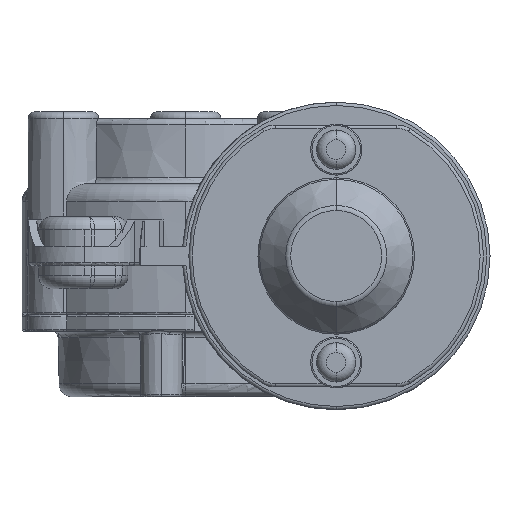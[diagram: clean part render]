
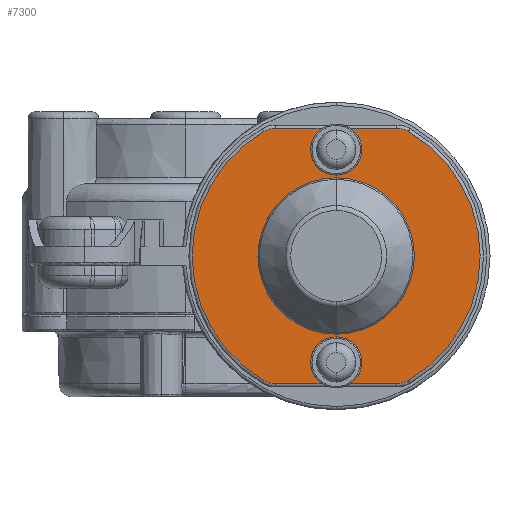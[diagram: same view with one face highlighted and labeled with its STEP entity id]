
A CAD part, left-side view. The second image highlights one B-rep face of the part: STEP entity #7300.
In plain terms, the highlighted planar face has unit normal (-1, 0, 0).
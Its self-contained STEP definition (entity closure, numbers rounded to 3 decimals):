
#22 = CARTESIAN_POINT ( 'NONE',  ( -117.5, -23., -12.35 ) ) ;
#1283 = CIRCLE ( 'NONE', #1748, 3.9 ) ;
#1554 = AXIS2_PLACEMENT_3D ( 'NONE', #12124, #12119, #12143 ) ;
#1557 = AXIS2_PLACEMENT_3D ( 'NONE', #12114, #11857, #11928 ) ;
#1558 = AXIS2_PLACEMENT_3D ( 'NONE', #11437, #12146, #12145 ) ;
#1559 = AXIS2_PLACEMENT_3D ( 'NONE', #11419, #12149, #12116 ) ;
#1561 = AXIS2_PLACEMENT_3D ( 'NONE', #12113, #12066, #12111 ) ;
#1562 = AXIS2_PLACEMENT_3D ( 'NONE', #11297, #11438, #11436 ) ;
#1611 = AXIS2_PLACEMENT_3D ( 'NONE', #11411, #11304, #11305 ) ;
#1667 = AXIS2_PLACEMENT_3D ( 'NONE', #16352, #16359, #16227 ) ;
#1669 = AXIS2_PLACEMENT_3D ( 'NONE', #12095, #12088, #12082 ) ;
#1670 = AXIS2_PLACEMENT_3D ( 'NONE', #12092, #12090, #12089 ) ;
#1748 = AXIS2_PLACEMENT_3D ( 'NONE', #11548, #11502, #11499 ) ;
#1856 = AXIS2_PLACEMENT_3D ( 'NONE', #7609, #7584, #7576 ) ;
#1927 = AXIS2_PLACEMENT_3D ( 'NONE', #19474, #19078, #19107 ) ;
#5151 = CIRCLE ( 'NONE', #1927, 3.9 ) ;
#5546 = FACE_OUTER_BOUND ( 'NONE', #13254, .T. ) ;
#5581 = FACE_BOUND ( 'NONE', #10168, .T. ) ;
#5857 = EDGE_CURVE ( 'NONE', #18421, #18393, #19010, .T. ) ;
#6072 = EDGE_CURVE ( 'NONE', #18514, #18550, #14117, .T. ) ;
#6076 = EDGE_CURVE ( 'NONE', #18550, #18768, #14162, .T. ) ;
#6077 = EDGE_CURVE ( 'NONE', #18418, #18742, #7105, .T. ) ;
#6078 = EDGE_CURVE ( 'NONE', #18432, #18780, #14077, .T. ) ;
#6079 = EDGE_CURVE ( 'NONE', #18393, #18421, #14183, .T. ) ;
#6080 = EDGE_CURVE ( 'NONE', #18658, #18780, #14116, .T. ) ;
#6082 = EDGE_CURVE ( 'NONE', #18742, #18514, #14098, .T. ) ;
#6083 = EDGE_CURVE ( 'NONE', #18768, #18404, #14186, .T. ) ;
#6085 = EDGE_CURVE ( 'NONE', #18620, #18536, #14157, .T. ) ;
#6086 = EDGE_CURVE ( 'NONE', #18536, #18663, #14174, .T. ) ;
#6088 = EDGE_CURVE ( 'NONE', #18595, #18620, #14076, .T. ) ;
#6090 = EDGE_CURVE ( 'NONE', #18595, #18310, #14165, .T. ) ;
#6091 = EDGE_CURVE ( 'NONE', #18663, #18658, #14144, .T. ) ;
#6206 = EDGE_CURVE ( 'NONE', #18418, #18432, #1283, .T. ) ;
#7105 = LINE ( 'NONE', #11431, #14107 ) ;
#7300 = ADVANCED_FACE ( 'NONE', ( #5581, #5546 ), #7618, .T. ) ;
#7576 = DIRECTION ( 'NONE',  ( 0., 0., 1. ) ) ;
#7584 = DIRECTION ( 'NONE',  ( -1., 0., 0. ) ) ;
#7609 = CARTESIAN_POINT ( 'NONE',  ( -117.5, -23., 0. ) ) ;
#7618 = PLANE ( 'NONE',  #1856 ) ;
#9659 = CARTESIAN_POINT ( 'NONE',  ( -117.5, -25.156, -19.5 ) ) ;
#9664 = CARTESIAN_POINT ( 'NONE',  ( -117.5, -11.956, 19.027 ) ) ;
#9671 = CARTESIAN_POINT ( 'NONE',  ( -117.5, -32.287, -19.5 ) ) ;
#9678 = CARTESIAN_POINT ( 'NONE',  ( -117.5, -20.844, -19.5 ) ) ;
#9702 = CARTESIAN_POINT ( 'NONE',  ( -117.5, -23., -11.95 ) ) ;
#9757 = CARTESIAN_POINT ( 'NONE',  ( -117.5, -32.287, 19.5 ) ) ;
#9778 = CARTESIAN_POINT ( 'NONE',  ( -117.5, -25.156, 19.5 ) ) ;
#9805 = CARTESIAN_POINT ( 'NONE',  ( -117.5, -13.713, -19.5 ) ) ;
#9806 = CARTESIAN_POINT ( 'NONE',  ( -117.5, -20.844, 19.5 ) ) ;
#9885 = CARTESIAN_POINT ( 'NONE',  ( -117.5, -23., 12.35 ) ) ;
#9916 = CARTESIAN_POINT ( 'NONE',  ( -117.5, -13.713, 19.5 ) ) ;
#9917 = CARTESIAN_POINT ( 'NONE',  ( -117.5, -34.044, 19.027 ) ) ;
#9945 = CARTESIAN_POINT ( 'NONE',  ( -117.5, -34.044, -19.027 ) ) ;
#10091 = CARTESIAN_POINT ( 'NONE',  ( -117.5, -11.956, -19.027 ) ) ;
#10127 = CARTESIAN_POINT ( 'NONE',  ( -117.5, -23., 11.95 ) ) ;
#10142 = ORIENTED_EDGE ( 'NONE', *, *, #12480, .F. ) ;
#10168 = EDGE_LOOP ( 'NONE', ( #10453, #10173 ) ) ;
#10173 = ORIENTED_EDGE ( 'NONE', *, *, #5857, .F. ) ;
#10188 = ORIENTED_EDGE ( 'NONE', *, *, #6076, .T. ) ;
#10212 = ORIENTED_EDGE ( 'NONE', *, *, #6072, .T. ) ;
#10226 = ORIENTED_EDGE ( 'NONE', *, *, #6078, .F. ) ;
#10292 = ORIENTED_EDGE ( 'NONE', *, *, #6080, .T. ) ;
#10371 = ORIENTED_EDGE ( 'NONE', *, *, #6088, .T. ) ;
#10372 = ORIENTED_EDGE ( 'NONE', *, *, #6086, .T. ) ;
#10389 = ORIENTED_EDGE ( 'NONE', *, *, #6082, .T. ) ;
#10452 = ORIENTED_EDGE ( 'NONE', *, *, #6077, .T. ) ;
#10453 = ORIENTED_EDGE ( 'NONE', *, *, #6079, .F. ) ;
#10465 = ORIENTED_EDGE ( 'NONE', *, *, #6091, .T. ) ;
#10467 = ORIENTED_EDGE ( 'NONE', *, *, #6090, .F. ) ;
#10491 = ORIENTED_EDGE ( 'NONE', *, *, #6085, .T. ) ;
#10578 = ORIENTED_EDGE ( 'NONE', *, *, #6083, .T. ) ;
#10590 = ORIENTED_EDGE ( 'NONE', *, *, #6206, .F. ) ;
#11297 = CARTESIAN_POINT ( 'NONE',  ( -117.5, -13.713, -16. ) ) ;
#11304 = DIRECTION ( 'NONE',  ( -1., 0., 0. ) ) ;
#11305 = DIRECTION ( 'NONE',  ( 0., 0., 1. ) ) ;
#11411 = CARTESIAN_POINT ( 'NONE',  ( -117.5, -23., 0. ) ) ;
#11419 = CARTESIAN_POINT ( 'NONE',  ( -117.5, -23., 16.25 ) ) ;
#11431 = CARTESIAN_POINT ( 'NONE',  ( -117.5, -23., 19.5 ) ) ;
#11433 = DIRECTION ( 'NONE',  ( 0., 1., 0. ) ) ;
#11436 = DIRECTION ( 'NONE',  ( 0., 0., 1. ) ) ;
#11437 = CARTESIAN_POINT ( 'NONE',  ( -117.5, -23., 0. ) ) ;
#11438 = DIRECTION ( 'NONE',  ( -1., 0., 0. ) ) ;
#11499 = DIRECTION ( 'NONE',  ( 0., 0., 1. ) ) ;
#11502 = DIRECTION ( 'NONE',  ( -1., 0., 0. ) ) ;
#11548 = CARTESIAN_POINT ( 'NONE',  ( -117.5, -23., 16.25 ) ) ;
#11857 = DIRECTION ( 'NONE',  ( -1., 0., 0. ) ) ;
#11928 = DIRECTION ( 'NONE',  ( 0., 0., 1. ) ) ;
#12031 = CARTESIAN_POINT ( 'NONE',  ( -117.5, -23., -19.5 ) ) ;
#12066 = DIRECTION ( 'NONE',  ( -1., 0., 0. ) ) ;
#12082 = DIRECTION ( 'NONE',  ( 0., 0., 1. ) ) ;
#12088 = DIRECTION ( 'NONE',  ( -1., 0., 0. ) ) ;
#12089 = DIRECTION ( 'NONE',  ( 0., 0., 1. ) ) ;
#12090 = DIRECTION ( 'NONE',  ( -1., 0., 0. ) ) ;
#12092 = CARTESIAN_POINT ( 'NONE',  ( -117.5, -23., -16.25 ) ) ;
#12095 = CARTESIAN_POINT ( 'NONE',  ( -117.5, -32.287, 16. ) ) ;
#12096 = DIRECTION ( 'NONE',  ( 0., -1., 0. ) ) ;
#12111 = DIRECTION ( 'NONE',  ( 0., 0., 1. ) ) ;
#12113 = CARTESIAN_POINT ( 'NONE',  ( -117.5, -23., 0. ) ) ;
#12114 = CARTESIAN_POINT ( 'NONE',  ( -117.5, -32.287, -16. ) ) ;
#12115 = CARTESIAN_POINT ( 'NONE',  ( -117.5, -23., -19.5 ) ) ;
#12116 = DIRECTION ( 'NONE',  ( 0., 0., 1. ) ) ;
#12118 = DIRECTION ( 'NONE',  ( 0., -1., 0. ) ) ;
#12119 = DIRECTION ( 'NONE',  ( -1., 0., 0. ) ) ;
#12124 = CARTESIAN_POINT ( 'NONE',  ( -117.5, -13.713, 16. ) ) ;
#12125 = CARTESIAN_POINT ( 'NONE',  ( -117.5, -23., 19.5 ) ) ;
#12127 = DIRECTION ( 'NONE',  ( 0., 1., 0. ) ) ;
#12143 = DIRECTION ( 'NONE',  ( 0., 0., 1. ) ) ;
#12145 = DIRECTION ( 'NONE',  ( 0., 0., 1. ) ) ;
#12146 = DIRECTION ( 'NONE',  ( -1., 0., 0. ) ) ;
#12149 = DIRECTION ( 'NONE',  ( -1., 0., 0. ) ) ;
#12480 = EDGE_CURVE ( 'NONE', #18310, #18404, #5151, .T. ) ;
#13254 = EDGE_LOOP ( 'NONE', ( #10292, #10226, #10590, #10452, #10389, #10212, #10188, #10578, #10142, #10467, #10371, #10491, #10372, #10465 ) ) ;
#14076 = LINE ( 'NONE', #12031, #14158 ) ;
#14077 = CIRCLE ( 'NONE', #1559, 3.9 ) ;
#14092 = VECTOR ( 'NONE', #12127, 1000. ) ;
#14098 = CIRCLE ( 'NONE', #1554, 3.5 ) ;
#14107 = VECTOR ( 'NONE', #11433, 1000. ) ;
#14116 = LINE ( 'NONE', #12125, #14092 ) ;
#14117 = CIRCLE ( 'NONE', #1611, 22. ) ;
#14144 = CIRCLE ( 'NONE', #1669, 3.5 ) ;
#14157 = CIRCLE ( 'NONE', #1557, 3.5 ) ;
#14158 = VECTOR ( 'NONE', #12096, 1000. ) ;
#14162 = CIRCLE ( 'NONE', #1562, 3.5 ) ;
#14165 = CIRCLE ( 'NONE', #1670, 3.9 ) ;
#14169 = VECTOR ( 'NONE', #12118, 1000. ) ;
#14174 = CIRCLE ( 'NONE', #1561, 22. ) ;
#14183 = CIRCLE ( 'NONE', #1558, 11.95 ) ;
#14186 = LINE ( 'NONE', #12115, #14169 ) ;
#16227 = DIRECTION ( 'NONE',  ( 0., 0., 1. ) ) ;
#16352 = CARTESIAN_POINT ( 'NONE',  ( -117.5, -23., 0. ) ) ;
#16359 = DIRECTION ( 'NONE',  ( -1., 0., 0. ) ) ;
#18310 = VERTEX_POINT ( 'NONE', #22 ) ;
#18393 = VERTEX_POINT ( 'NONE', #9702 ) ;
#18404 = VERTEX_POINT ( 'NONE', #9678 ) ;
#18418 = VERTEX_POINT ( 'NONE', #9806 ) ;
#18421 = VERTEX_POINT ( 'NONE', #10127 ) ;
#18432 = VERTEX_POINT ( 'NONE', #9885 ) ;
#18514 = VERTEX_POINT ( 'NONE', #9664 ) ;
#18536 = VERTEX_POINT ( 'NONE', #9945 ) ;
#18550 = VERTEX_POINT ( 'NONE', #10091 ) ;
#18595 = VERTEX_POINT ( 'NONE', #9659 ) ;
#18620 = VERTEX_POINT ( 'NONE', #9671 ) ;
#18658 = VERTEX_POINT ( 'NONE', #9757 ) ;
#18663 = VERTEX_POINT ( 'NONE', #9917 ) ;
#18742 = VERTEX_POINT ( 'NONE', #9916 ) ;
#18768 = VERTEX_POINT ( 'NONE', #9805 ) ;
#18780 = VERTEX_POINT ( 'NONE', #9778 ) ;
#19010 = CIRCLE ( 'NONE', #1667, 11.95 ) ;
#19078 = DIRECTION ( 'NONE',  ( -1., 0., 0. ) ) ;
#19107 = DIRECTION ( 'NONE',  ( 0., 0., 1. ) ) ;
#19474 = CARTESIAN_POINT ( 'NONE',  ( -117.5, -23., -16.25 ) ) ;
